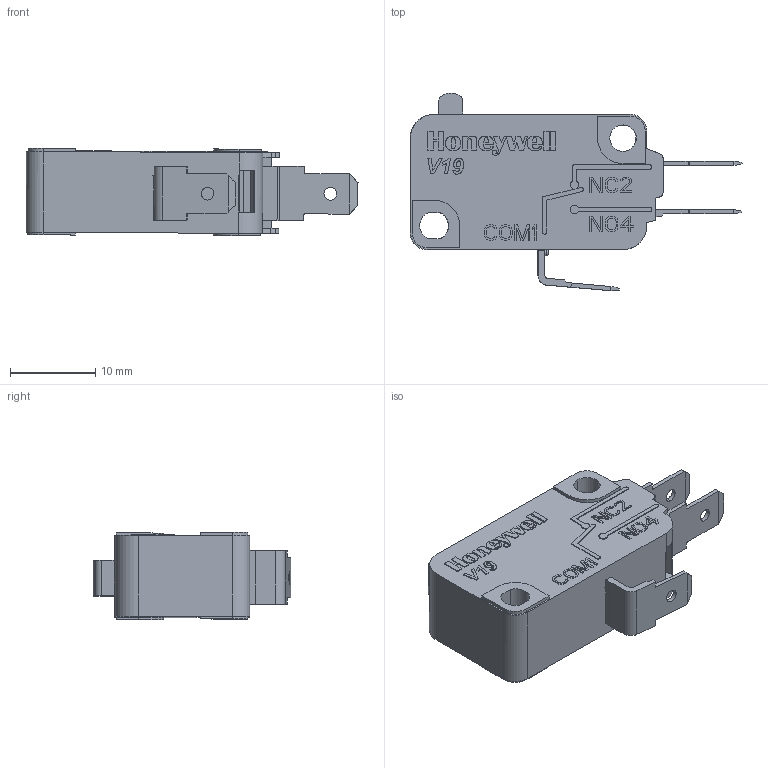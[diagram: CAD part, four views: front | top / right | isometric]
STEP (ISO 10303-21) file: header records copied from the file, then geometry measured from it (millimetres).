
FILE_DESCRIPTION((''),'2;1');
FILE_NAME('V19S05-EP025','2020-06-15T12:53:38',('H252115'),(''),'CREO PARAMETRIC BY PTC INC, 2017380','CREO PARAMETRIC BY PTC INC, 2017380','');
FILE_SCHEMA(('CONFIG_CONTROL_DESIGN'));
Length unit declared in the file: millimetre
Products named in the file (1): V19S05-EP025
Bounding box: 39.03 x 23.25 x 10.34 mm (x, y, z)
Volume: 4171.5 mm3; surface area: 2424.9 mm2
Topology: 1 solids, 1 shells, 691 faces, 1982 edges, 1328 vertices
Faces by surface type: plane 516, extrusion 101, cylinder 67, torus 5, bspline 2
Entity records: 24937 total; most frequent: CARTESIAN_POINT 7013, ORIENTED_EDGE 3964, DIRECTION 3202, EDGE_CURVE 1982, VECTOR 1708, LINE 1607, VERTEX_POINT 1328, AXIS2_PLACEMENT_3D 747
